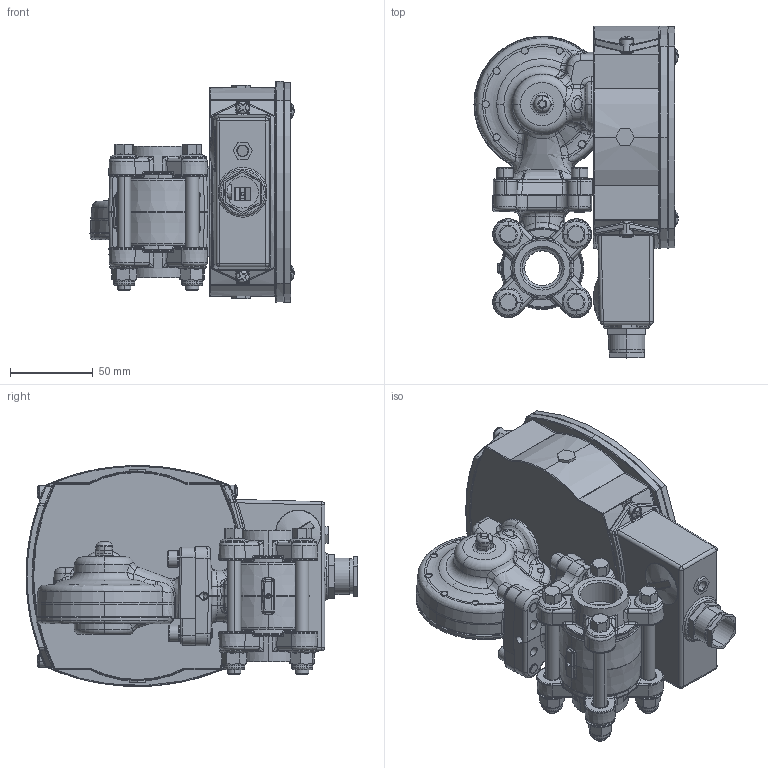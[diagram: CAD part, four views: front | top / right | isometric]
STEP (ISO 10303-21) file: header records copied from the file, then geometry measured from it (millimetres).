
FILE_DESCRIPTION (( 'STEP AP214' ), '1' );
FILE_NAME ('S GL20.STEP', '2016-09-21T13:39:28', ( 'User' ), ( 'HP' ), 'SwSTEP 2.0', 'SolidWorks 2016', '' );
FILE_SCHEMA (( 'AUTOMOTIVE_DESIGN' ));
Length unit declared in the file: millimetre
Products named in the file (36): ID_6_1; ID_5_1_2; ID_5_2; ID_4_1_2; ID_4_3; ID_3_1_2; ID_3_3; ID_2_1_2; ID_2_4; ID_1_3_3; ID_1_4; S hus; M5 membranskruvar_1; ID_1_4_8; skruv_membranhus_1; ID_14; fj_X_E4derbricka till membranhus BR_1; ID_13; MC6S M6x22_1; ID_12; Lock kontrollerad HMAB ELETTA 20160908_1; ID_1_1; ID_1_4_5; Membranhus kontrollerad HMAB ELETTA 20160908_1; ID_10; ID_1_4_4; S2_25_internal_2_1; ID_1_4_3; kupolmutter_1; ID_1_1_2; m_X_E4ssingsmembran_1; ID_9; ID_1_4_2; S GL20; ID_7_2; GL20
Assembly tree (60 placements, depth 5):
  S GL20
    S2_25_internal_2_1
      m_X_E4ssingsmembran_1
      kupolmutter_1
    Membranhus kontrollerad HMAB ELETTA 20160908_1
    Lock kontrollerad HMAB ELETTA 20160908_1
    MC6S M6x22_1  x4
    M5 membranskruvar_1  x9
      fj_X_E4derbricka till membranhus BR_1
      skruv_membranhus_1
    S hus
      ID_1_1
        ID_1_4
        ID_2_4
        ID_3_3
        ID_4_3
        ID_5_2
        ID_6_1  x4
        ID_7_2  x4
        ID_1_4_2
        ID_1_1_2
          ID_9  x2
        ID_1_4_3
        ID_1_4_4
        ID_10
        ID_1_4_5
      ID_12  x2
      ID_13
      ID_14
      ID_1_4_8
    GL20
      ID_1_3_3
      ID_2_1_2
      ID_3_1_2
      ID_4_1_2  x4
      ID_5_1_2  x4
Bounding box: 123.18 x 200.42 x 133.42 mm (x, y, z)
Volume: 544598.9 mm3; surface area: 281541.9 mm2
Topology: 63 solids, 63 shells, 3304 faces, 8157 edges, 4997 vertices
Faces by surface type: bspline 1073, plane 967, cylinder 826, cone 364, torus 67, sphere 7
Entity records: 152973 total; most frequent: CARTESIAN_POINT 97404, ORIENTED_EDGE 12602, DIRECTION 9194, EDGE_CURVE 6301, VERTEX_POINT 3856, AXIS2_PLACEMENT_3D 3515, EDGE_LOOP 2813, ADVANCED_FACE 2584
